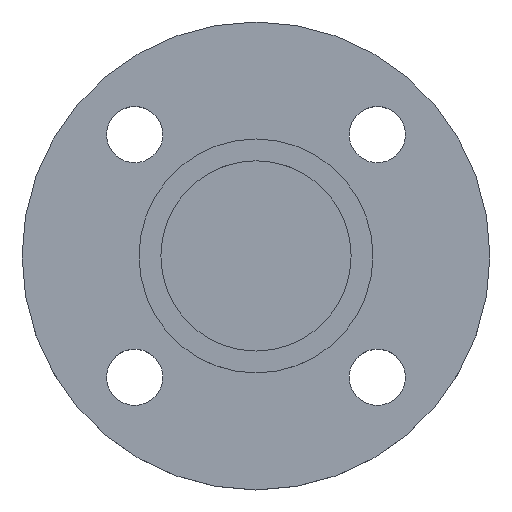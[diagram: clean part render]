
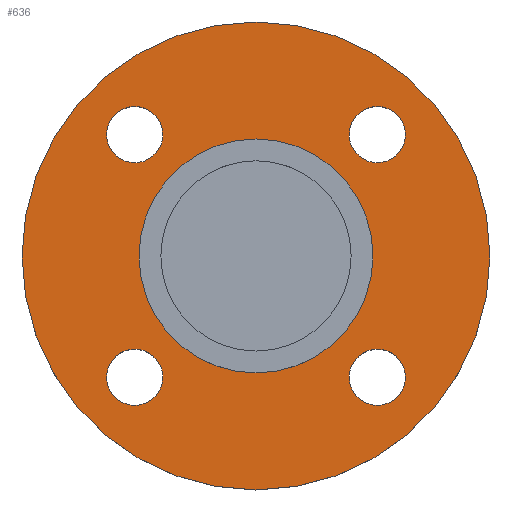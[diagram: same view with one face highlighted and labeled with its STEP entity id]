
A CAD part, top view. The second image highlights one B-rep face of the part: STEP entity #636.
In plain terms, the highlighted planar face has unit normal (0, 0, 1).
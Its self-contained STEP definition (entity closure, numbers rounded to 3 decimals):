
#4 = CIRCLE ( 'NONE', #415, 37.5 ) ;
#39 = CIRCLE ( 'NONE', #466, 9. ) ;
#66 = DIRECTION ( 'NONE',  ( -1., 0., 0. ) ) ;
#68 = DIRECTION ( 'NONE',  ( 0., 0., -1. ) ) ;
#69 = CARTESIAN_POINT ( 'NONE',  ( 0., 0., -4.5 ) ) ;
#82 = DIRECTION ( 'NONE',  ( 1., 0., 0. ) ) ;
#83 = DIRECTION ( 'NONE',  ( 0., 0., -1. ) ) ;
#84 = CARTESIAN_POINT ( 'NONE',  ( -38.891, -38.891, -4.5 ) ) ;
#86 = EDGE_CURVE ( 'NONE', #691, #508, #320, .T. ) ;
#103 = DIRECTION ( 'NONE',  ( 1., 0., 0. ) ) ;
#104 = DIRECTION ( 'NONE',  ( 0., 0., -1. ) ) ;
#105 = CARTESIAN_POINT ( 'NONE',  ( -38.891, 38.891, -4.5 ) ) ;
#106 = CARTESIAN_POINT ( 'NONE',  ( -47.891, 38.891, -4.5 ) ) ;
#108 = CARTESIAN_POINT ( 'NONE',  ( -29.891, 38.891, -4.5 ) ) ;
#110 = CARTESIAN_POINT ( 'NONE',  ( 29.891, -38.891, -4.5 ) ) ;
#126 = CARTESIAN_POINT ( 'NONE',  ( 37.5, 0., -4.5 ) ) ;
#127 = CARTESIAN_POINT ( 'NONE',  ( 29.891, 38.891, -4.5 ) ) ;
#128 = DIRECTION ( 'NONE',  ( 1., 0., 0. ) ) ;
#130 = DIRECTION ( 'NONE',  ( 0., 0., -1. ) ) ;
#131 = CARTESIAN_POINT ( 'NONE',  ( -38.891, 38.891, -4.5 ) ) ;
#142 = CARTESIAN_POINT ( 'NONE',  ( 75., 0., -4.5 ) ) ;
#143 = CARTESIAN_POINT ( 'NONE',  ( 47.891, -38.891, -4.5 ) ) ;
#171 = AXIS2_PLACEMENT_3D ( 'NONE', #412, #252, #389 ) ;
#175 = CARTESIAN_POINT ( 'NONE',  ( 0., 0., -4.5 ) ) ;
#177 = DIRECTION ( 'NONE',  ( 0., 0., -1. ) ) ;
#178 = DIRECTION ( 'NONE',  ( -1., 0., 0. ) ) ;
#186 = CIRCLE ( 'NONE', #215, 9. ) ;
#192 = DIRECTION ( 'NONE',  ( 1., 0., 0. ) ) ;
#194 = EDGE_CURVE ( 'NONE', #688, #716, #463, .T. ) ;
#201 = EDGE_CURVE ( 'NONE', #477, #702, #207, .T. ) ;
#203 = DIRECTION ( 'NONE',  ( 0., 0., 1. ) ) ;
#204 = CARTESIAN_POINT ( 'NONE',  ( 37.5, 0., -4.5 ) ) ;
#205 = PLANE ( 'NONE',  #431 ) ;
#206 = CIRCLE ( 'NONE', #545, 9. ) ;
#207 = CIRCLE ( 'NONE', #569, 9. ) ;
#208 = FACE_OUTER_BOUND ( 'NONE', #567, .T. ) ;
#210 = FACE_BOUND ( 'NONE', #513, .T. ) ;
#211 = FACE_BOUND ( 'NONE', #510, .T. ) ;
#212 = FACE_BOUND ( 'NONE', #484, .T. ) ;
#214 = FACE_BOUND ( 'NONE', #485, .T. ) ;
#215 = AXIS2_PLACEMENT_3D ( 'NONE', #105, #104, #103 ) ;
#216 = FACE_BOUND ( 'NONE', #494, .T. ) ;
#227 = AXIS2_PLACEMENT_3D ( 'NONE', #69, #68, #66 ) ;
#230 = EDGE_CURVE ( 'NONE', #716, #688, #39, .T. ) ;
#252 = DIRECTION ( 'NONE',  ( 0., 0., -1. ) ) ;
#254 = CARTESIAN_POINT ( 'NONE',  ( -75., 0., -4.5 ) ) ;
#280 = CARTESIAN_POINT ( 'NONE',  ( 38.891, 38.891, -4.5 ) ) ;
#284 = DIRECTION ( 'NONE',  ( 0., 0., -1. ) ) ;
#286 = DIRECTION ( 'NONE',  ( 1., 0., 0. ) ) ;
#313 = CARTESIAN_POINT ( 'NONE',  ( 0., 0., -4.5 ) ) ;
#314 = DIRECTION ( 'NONE',  ( 0., 0., -1. ) ) ;
#315 = DIRECTION ( 'NONE',  ( -1., 0., 0. ) ) ;
#320 = CIRCLE ( 'NONE', #689, 75. ) ;
#332 = CIRCLE ( 'NONE', #171, 9. ) ;
#359 = AXIS2_PLACEMENT_3D ( 'NONE', #131, #130, #128 ) ;
#362 = CIRCLE ( 'NONE', #359, 9. ) ;
#367 = CARTESIAN_POINT ( 'NONE',  ( -37.5, 0., -4.5 ) ) ;
#373 = CARTESIAN_POINT ( 'NONE',  ( 47.891, 38.891, -4.5 ) ) ;
#388 = EDGE_CURVE ( 'NONE', #508, #691, #560, .T. ) ;
#389 = DIRECTION ( 'NONE',  ( 1., 0., 0. ) ) ;
#401 = CARTESIAN_POINT ( 'NONE',  ( -47.891, -38.891, -4.5 ) ) ;
#402 = AXIS2_PLACEMENT_3D ( 'NONE', #175, #177, #178 ) ;
#412 = CARTESIAN_POINT ( 'NONE',  ( -38.891, -38.891, -4.5 ) ) ;
#415 = AXIS2_PLACEMENT_3D ( 'NONE', #313, #314, #315 ) ;
#416 = CARTESIAN_POINT ( 'NONE',  ( -29.891, -38.891, -4.5 ) ) ;
#426 = AXIS2_PLACEMENT_3D ( 'NONE', #783, #784, #785 ) ;
#431 = AXIS2_PLACEMENT_3D ( 'NONE', #204, #203, #192 ) ;
#438 = EDGE_CURVE ( 'NONE', #702, #477, #206, .T. ) ;
#444 = CIRCLE ( 'NONE', #227, 37.5 ) ;
#450 = EDGE_CURVE ( 'NONE', #703, #475, #4, .T. ) ;
#463 = CIRCLE ( 'NONE', #426, 9. ) ;
#466 = AXIS2_PLACEMENT_3D ( 'NONE', #793, #794, #796 ) ;
#475 = VERTEX_POINT ( 'NONE', #367 ) ;
#477 = VERTEX_POINT ( 'NONE', #373 ) ;
#484 = EDGE_LOOP ( 'NONE', ( #608, #609 ) ) ;
#485 = EDGE_LOOP ( 'NONE', ( #605, #606 ) ) ;
#494 = EDGE_LOOP ( 'NONE', ( #603, #604 ) ) ;
#502 = AXIS2_PLACEMENT_3D ( 'NONE', #84, #83, #82 ) ;
#504 = CIRCLE ( 'NONE', #502, 9. ) ;
#508 = VERTEX_POINT ( 'NONE', #254 ) ;
#510 = EDGE_LOOP ( 'NONE', ( #611, #612 ) ) ;
#513 = EDGE_LOOP ( 'NONE', ( #613, #614 ) ) ;
#516 = VERTEX_POINT ( 'NONE', #401 ) ;
#537 = VERTEX_POINT ( 'NONE', #416 ) ;
#545 = AXIS2_PLACEMENT_3D ( 'NONE', #280, #284, #286 ) ;
#560 = CIRCLE ( 'NONE', #402, 75. ) ;
#567 = EDGE_LOOP ( 'NONE', ( #615, #617 ) ) ;
#569 = AXIS2_PLACEMENT_3D ( 'NONE', #786, #788, #789 ) ;
#574 = EDGE_CURVE ( 'NONE', #516, #537, #332, .T. ) ;
#603 = ORIENTED_EDGE ( 'NONE', *, *, #194, .T. ) ;
#604 = ORIENTED_EDGE ( 'NONE', *, *, #230, .T. ) ;
#605 = ORIENTED_EDGE ( 'NONE', *, *, #741, .T. ) ;
#606 = ORIENTED_EDGE ( 'NONE', *, *, #574, .T. ) ;
#608 = ORIENTED_EDGE ( 'NONE', *, *, #721, .T. ) ;
#609 = ORIENTED_EDGE ( 'NONE', *, *, #701, .T. ) ;
#611 = ORIENTED_EDGE ( 'NONE', *, *, #201, .T. ) ;
#612 = ORIENTED_EDGE ( 'NONE', *, *, #438, .T. ) ;
#613 = ORIENTED_EDGE ( 'NONE', *, *, #773, .T. ) ;
#614 = ORIENTED_EDGE ( 'NONE', *, *, #450, .T. ) ;
#615 = ORIENTED_EDGE ( 'NONE', *, *, #86, .F. ) ;
#617 = ORIENTED_EDGE ( 'NONE', *, *, #388, .F. ) ;
#636 = ADVANCED_FACE ( 'NONE', ( #216, #214, #212, #211, #210, #208 ), #205, .T. ) ;
#688 = VERTEX_POINT ( 'NONE', #143 ) ;
#689 = AXIS2_PLACEMENT_3D ( 'NONE', #749, #751, #752 ) ;
#691 = VERTEX_POINT ( 'NONE', #142 ) ;
#701 = EDGE_CURVE ( 'NONE', #719, #718, #362, .T. ) ;
#702 = VERTEX_POINT ( 'NONE', #127 ) ;
#703 = VERTEX_POINT ( 'NONE', #126 ) ;
#716 = VERTEX_POINT ( 'NONE', #110 ) ;
#718 = VERTEX_POINT ( 'NONE', #108 ) ;
#719 = VERTEX_POINT ( 'NONE', #106 ) ;
#721 = EDGE_CURVE ( 'NONE', #718, #719, #186, .T. ) ;
#741 = EDGE_CURVE ( 'NONE', #537, #516, #504, .T. ) ;
#749 = CARTESIAN_POINT ( 'NONE',  ( 0., 0., -4.5 ) ) ;
#751 = DIRECTION ( 'NONE',  ( 0., 0., -1. ) ) ;
#752 = DIRECTION ( 'NONE',  ( -1., 0., 0. ) ) ;
#773 = EDGE_CURVE ( 'NONE', #475, #703, #444, .T. ) ;
#783 = CARTESIAN_POINT ( 'NONE',  ( 38.891, -38.891, -4.5 ) ) ;
#784 = DIRECTION ( 'NONE',  ( 0., 0., -1. ) ) ;
#785 = DIRECTION ( 'NONE',  ( 1., 0., 0. ) ) ;
#786 = CARTESIAN_POINT ( 'NONE',  ( 38.891, 38.891, -4.5 ) ) ;
#788 = DIRECTION ( 'NONE',  ( 0., 0., -1. ) ) ;
#789 = DIRECTION ( 'NONE',  ( 1., 0., 0. ) ) ;
#793 = CARTESIAN_POINT ( 'NONE',  ( 38.891, -38.891, -4.5 ) ) ;
#794 = DIRECTION ( 'NONE',  ( 0., 0., -1. ) ) ;
#796 = DIRECTION ( 'NONE',  ( 1., 0., 0. ) ) ;
